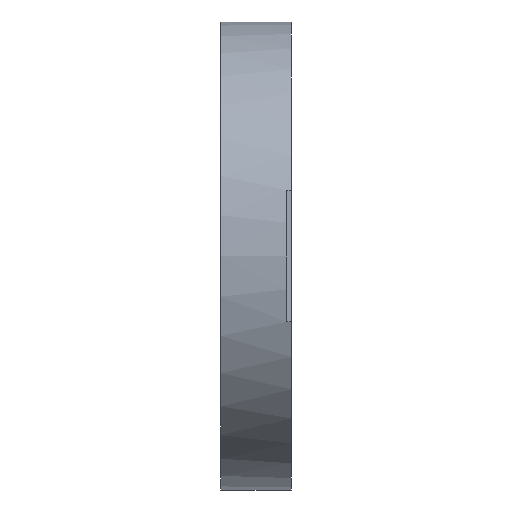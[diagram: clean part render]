
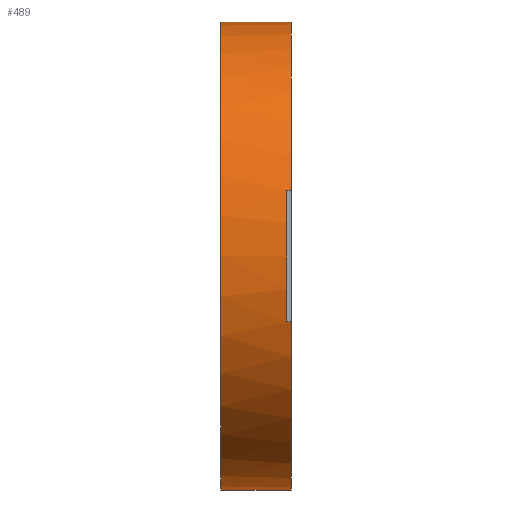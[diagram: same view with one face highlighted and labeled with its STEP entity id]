
A CAD part, left-side view. The second image highlights one B-rep face of the part: STEP entity #489.
In plain terms, the highlighted cylindrical face has radius 62.865 mm (diameter 125.73 mm), a partial arc.
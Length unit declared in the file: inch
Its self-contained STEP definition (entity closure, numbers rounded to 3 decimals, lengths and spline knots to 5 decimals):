
#12 = ORIENTED_EDGE ( 'NONE', *, *, #905, .F. ) ;
#44 = EDGE_CURVE ( 'NONE', #1274, #469, #953, .T. ) ;
#57 = EDGE_CURVE ( 'NONE', #150, #686, #112, .T. ) ;
#71 = DIRECTION ( 'NONE',  ( 0., -1., 0. ) ) ;
#112 = LINE ( 'NONE', #1097, #646 ) ;
#117 = ORIENTED_EDGE ( 'NONE', *, *, #1233, .T. ) ;
#150 = VERTEX_POINT ( 'NONE', #653 ) ;
#166 = ORIENTED_EDGE ( 'NONE', *, *, #57, .T. ) ;
#172 = DIRECTION ( 'NONE',  ( 0., 0., 1. ) ) ;
#177 = LINE ( 'NONE', #823, #295 ) ;
#185 = ORIENTED_EDGE ( 'NONE', *, *, #835, .T. ) ;
#189 = CARTESIAN_POINT ( 'NONE',  ( -2.375, 0., 0.69642 ) ) ;
#194 = DIRECTION ( 'NONE',  ( 0., -1., 0. ) ) ;
#195 = DIRECTION ( 'NONE',  ( 0., 0., -1. ) ) ;
#252 = AXIS2_PLACEMENT_3D ( 'NONE', #304, #931, #195 ) ;
#295 = VECTOR ( 'NONE', #194, 39.37008 ) ;
#304 = CARTESIAN_POINT ( 'NONE',  ( 0., 0.05, 0. ) ) ;
#331 = EDGE_CURVE ( 'NONE', #585, #1274, #691, .T. ) ;
#339 = EDGE_LOOP ( 'NONE', ( #12, #809, #166, #185, #371, #581, #117, #762 ) ) ;
#350 = DIRECTION ( 'NONE',  ( 0., -1., 0. ) ) ;
#359 = CARTESIAN_POINT ( 'NONE',  ( -2.375, 0.05, -0.69642 ) ) ;
#371 = ORIENTED_EDGE ( 'NONE', *, *, #44, .F. ) ;
#391 = CARTESIAN_POINT ( 'NONE',  ( 0., 0.75, 0. ) ) ;
#449 = VERTEX_POINT ( 'NONE', #189 ) ;
#457 = EDGE_CURVE ( 'NONE', #449, #843, #535, .T. ) ;
#469 = VERTEX_POINT ( 'NONE', #506 ) ;
#489 = ADVANCED_FACE ( 'NONE', ( #1025 ), #1283, .T. ) ;
#490 = DIRECTION ( 'NONE',  ( 0., 1., 0. ) ) ;
#506 = CARTESIAN_POINT ( 'NONE',  ( -2.375, 0., -0.69642 ) ) ;
#529 = DIRECTION ( 'NONE',  ( 0., 1., 0. ) ) ;
#535 = CIRCLE ( 'NONE', #815, 2.475 ) ;
#581 = ORIENTED_EDGE ( 'NONE', *, *, #331, .F. ) ;
#585 = VERTEX_POINT ( 'NONE', #792 ) ;
#646 = VECTOR ( 'NONE', #350, 39.37008 ) ;
#653 = CARTESIAN_POINT ( 'NONE',  ( 0., 0.75, -2.475 ) ) ;
#686 = VERTEX_POINT ( 'NONE', #1101 ) ;
#691 = CIRCLE ( 'NONE', #252, 2.475 ) ;
#762 = ORIENTED_EDGE ( 'NONE', *, *, #457, .T. ) ;
#792 = CARTESIAN_POINT ( 'NONE',  ( -2.375, 0.05, 0.69642 ) ) ;
#809 = ORIENTED_EDGE ( 'NONE', *, *, #1003, .F. ) ;
#815 = AXIS2_PLACEMENT_3D ( 'NONE', #1026, #912, #172 ) ;
#823 = CARTESIAN_POINT ( 'NONE',  ( 0., 0.75, 2.475 ) ) ;
#830 = CARTESIAN_POINT ( 'NONE',  ( 0., 0., 2.475 ) ) ;
#835 = EDGE_CURVE ( 'NONE', #686, #469, #1214, .T. ) ;
#843 = VERTEX_POINT ( 'NONE', #830 ) ;
#879 = AXIS2_PLACEMENT_3D ( 'NONE', #960, #490, #1378 ) ;
#905 = EDGE_CURVE ( 'NONE', #929, #843, #177, .T. ) ;
#912 = DIRECTION ( 'NONE',  ( 0., 1., 0. ) ) ;
#929 = VERTEX_POINT ( 'NONE', #1035 ) ;
#931 = DIRECTION ( 'NONE',  ( 0., -1., 0. ) ) ;
#936 = CARTESIAN_POINT ( 'NONE',  ( -2.375, 0.05, 0.69642 ) ) ;
#953 = LINE ( 'NONE', #359, #1218 ) ;
#960 = CARTESIAN_POINT ( 'NONE',  ( 0., 0.75, 0. ) ) ;
#990 = CIRCLE ( 'NONE', #879, 2.475 ) ;
#1003 = EDGE_CURVE ( 'NONE', #150, #929, #990, .T. ) ;
#1025 = FACE_OUTER_BOUND ( 'NONE', #339, .T. ) ;
#1026 = CARTESIAN_POINT ( 'NONE',  ( 0., 0., 0. ) ) ;
#1035 = CARTESIAN_POINT ( 'NONE',  ( 0., 0.75, 2.475 ) ) ;
#1049 = VECTOR ( 'NONE', #1299, 39.37008 ) ;
#1060 = AXIS2_PLACEMENT_3D ( 'NONE', #1273, #529, #1170 ) ;
#1097 = CARTESIAN_POINT ( 'NONE',  ( 0., 0.75, -2.475 ) ) ;
#1101 = CARTESIAN_POINT ( 'NONE',  ( 0., 0., -2.475 ) ) ;
#1141 = DIRECTION ( 'NONE',  ( 0., 0., -1. ) ) ;
#1166 = LINE ( 'NONE', #936, #1049 ) ;
#1170 = DIRECTION ( 'NONE',  ( 0., 0., 1. ) ) ;
#1186 = AXIS2_PLACEMENT_3D ( 'NONE', #391, #71, #1141 ) ;
#1214 = CIRCLE ( 'NONE', #1060, 2.475 ) ;
#1218 = VECTOR ( 'NONE', #1313, 39.37008 ) ;
#1233 = EDGE_CURVE ( 'NONE', #585, #449, #1166, .T. ) ;
#1273 = CARTESIAN_POINT ( 'NONE',  ( 0., 0., 0. ) ) ;
#1274 = VERTEX_POINT ( 'NONE', #1282 ) ;
#1282 = CARTESIAN_POINT ( 'NONE',  ( -2.375, 0.05, -0.69642 ) ) ;
#1283 = CYLINDRICAL_SURFACE ( 'NONE', #1186, 2.475 ) ;
#1299 = DIRECTION ( 'NONE',  ( 0., -1., 0. ) ) ;
#1313 = DIRECTION ( 'NONE',  ( 0., -1., 0. ) ) ;
#1378 = DIRECTION ( 'NONE',  ( 0., 0., 1. ) ) ;
